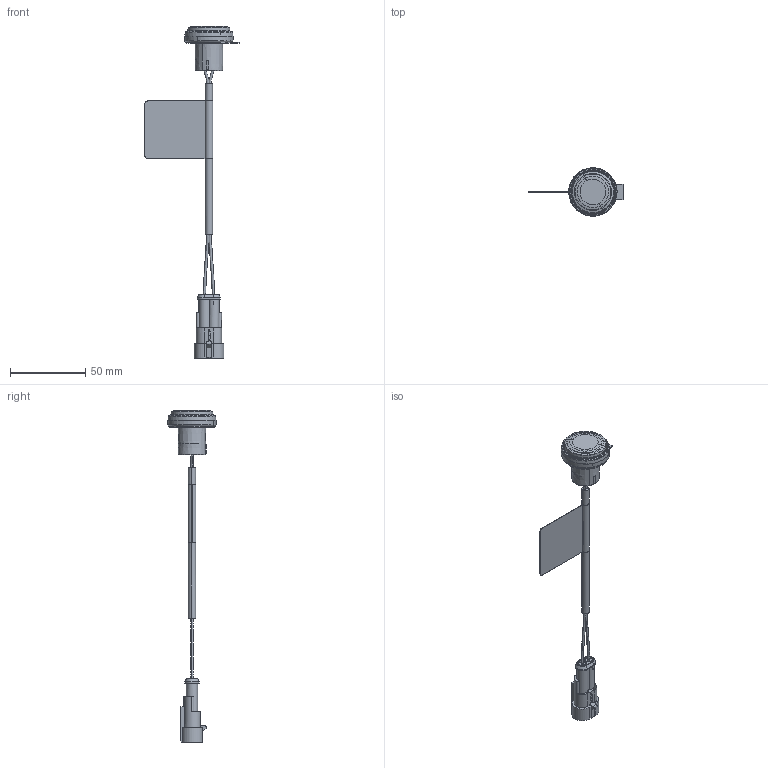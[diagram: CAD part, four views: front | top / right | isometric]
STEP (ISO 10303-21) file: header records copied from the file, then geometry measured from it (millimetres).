
FILE_DESCRIPTION(('CATIA V5 STEP Exchange','CAx-IF Rec.Pracs.--- Model Styling and Organization---1.5--- 2016-08-15','CAx-IF Rec.Pracs.---Supplemental Geometry---1.0---2011-11-01','CAx-IF Rec.Pracs.--- Composite Materials ---1.1---2010-07-15'),'2;1');
FILE_NAME('E:\tmp\ddx\2011205\HELLA_3D_data_LED_direction_indicator_lamp_cat-5_340-825_plastic_housing.stp','2022-01-18T06:56:53+00:00',('none'),('none'),'CATIA Version 5-6 Release 2020 SP3 HF9','CATIA V5 STEP AP214 Edition 3 v2','none');
FILE_SCHEMA(('AUTOMOTIVE_DESIGN { 1 0 10303 214 3 1 1 1 }'));
Length unit declared in the file: millimetre
Products named in the file (1): 10001725192_D10_001
Bounding box: 62.4 x 32.06 x 219.92 mm (x, y, z)
Volume: 19945.8 mm3; surface area: 16391.7 mm2
Topology: 2 solids, 2 shells, 266 faces, 701 edges, 450 vertices
Faces by surface type: plane 167, cylinder 49, bspline 18, torus 16, cone 10, revolution 4, extrusion 2
Entity records: 9400 total; most frequent: CARTESIAN_POINT 3127, ORIENTED_EDGE 1402, DIRECTION 1064, EDGE_CURVE 701, VECTOR 466, LINE 464, VERTEX_POINT 450, AXIS2_PLACEMENT_3D 363
